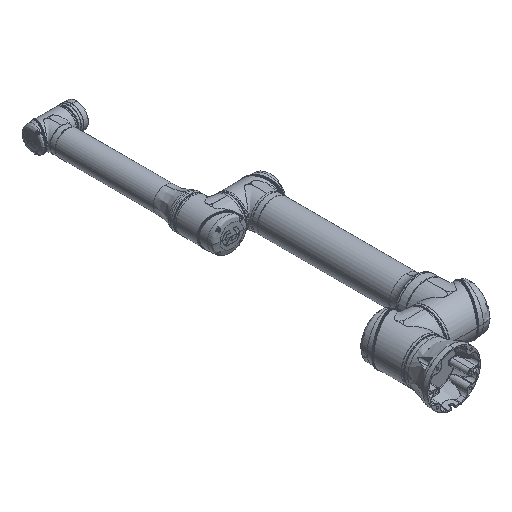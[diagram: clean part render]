
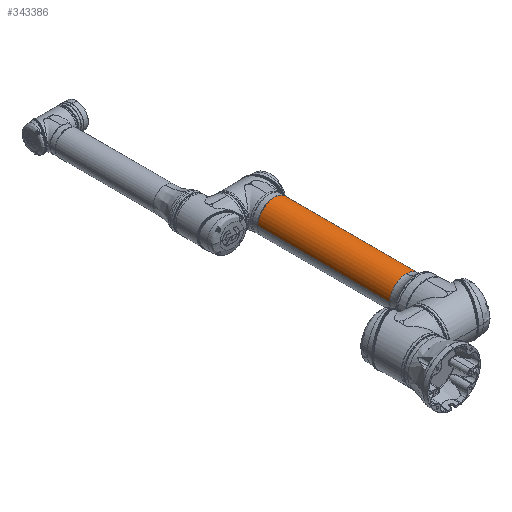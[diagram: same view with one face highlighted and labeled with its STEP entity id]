
A CAD part, isometric view. The second image highlights one B-rep face of the part: STEP entity #343386.
In plain terms, the highlighted cylindrical face has radius 59 mm (diameter 118 mm), a partial arc.
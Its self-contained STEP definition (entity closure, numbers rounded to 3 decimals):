
#12570 = AXIS2_PLACEMENT_3D ( 'NONE', #51737, #205196, #92567 ) ;
#23309 = VERTEX_POINT ( 'NONE', #252097 ) ;
#24246 = EDGE_CURVE ( 'NONE', #299391, #138115, #343925, .T. ) ;
#51737 = CARTESIAN_POINT ( 'NONE',  ( 52.463, 0., 0. ) ) ;
#69504 = EDGE_CURVE ( 'NONE', #479829, #138115, #402305, .T. ) ;
#75642 = DIRECTION ( 'NONE',  ( 1., 0., 0. ) ) ;
#76590 = CARTESIAN_POINT ( 'NONE',  ( 562.7, 0., -59. ) ) ;
#92567 = DIRECTION ( 'NONE',  ( 0., 0., -1. ) ) ;
#104200 = VECTOR ( 'NONE', #262878, 1000. ) ;
#106709 = DIRECTION ( 'NONE',  ( 0., 0., -1. ) ) ;
#111436 = DIRECTION ( 'NONE',  ( 0., 0., -1. ) ) ;
#138115 = VERTEX_POINT ( 'NONE', #342384 ) ;
#144040 = VERTEX_POINT ( 'NONE', #439489 ) ;
#145716 = DIRECTION ( 'NONE',  ( -1., 0., 0. ) ) ;
#169983 = CARTESIAN_POINT ( 'NONE',  ( 562.7, 0., 59. ) ) ;
#193072 = DIRECTION ( 'NONE',  ( 0., 0., -1. ) ) ;
#195894 = ORIENTED_EDGE ( 'NONE', *, *, #24246, .T. ) ;
#196977 = AXIS2_PLACEMENT_3D ( 'NONE', #219362, #399261, #106709 ) ;
#199499 = ORIENTED_EDGE ( 'NONE', *, *, #208476, .T. ) ;
#200282 = VECTOR ( 'NONE', #303542, 1000. ) ;
#205196 = DIRECTION ( 'NONE',  ( 1., 0., 0. ) ) ;
#208476 = EDGE_CURVE ( 'NONE', #479829, #144040, #350829, .T. ) ;
#217751 = EDGE_LOOP ( 'NONE', ( #299528, #199499, #440994, #307811, #195894 ) ) ;
#219362 = CARTESIAN_POINT ( 'NONE',  ( 52.463, 0., 0. ) ) ;
#228677 = FACE_OUTER_BOUND ( 'NONE', #217751, .T. ) ;
#252097 = CARTESIAN_POINT ( 'NONE',  ( 52.463, 0., -59. ) ) ;
#262878 = DIRECTION ( 'NONE',  ( 1., 0., 0. ) ) ;
#270628 = LINE ( 'NONE', #76590, #200282 ) ;
#299391 = VERTEX_POINT ( 'NONE', #378548 ) ;
#299528 = ORIENTED_EDGE ( 'NONE', *, *, #69504, .F. ) ;
#303542 = DIRECTION ( 'NONE',  ( 1., 0., 0. ) ) ;
#307811 = ORIENTED_EDGE ( 'NONE', *, *, #431948, .T. ) ;
#323670 = EDGE_CURVE ( 'NONE', #144040, #23309, #422541, .T. ) ;
#335224 = CARTESIAN_POINT ( 'NONE',  ( 526.1, 0., 0. ) ) ;
#342384 = CARTESIAN_POINT ( 'NONE',  ( 526.1, 0., 59. ) ) ;
#343337 = CARTESIAN_POINT ( 'NONE',  ( 562.7, 0., 0. ) ) ;
#343386 = ADVANCED_FACE ( 'NONE', ( #228677 ), #345422, .T. ) ;
#343925 = CIRCLE ( 'NONE', #369517, 59. ) ;
#345422 = CYLINDRICAL_SURFACE ( 'NONE', #422450, 59. ) ;
#350829 = CIRCLE ( 'NONE', #196977, 59. ) ;
#369517 = AXIS2_PLACEMENT_3D ( 'NONE', #335224, #145716, #111436 ) ;
#378548 = CARTESIAN_POINT ( 'NONE',  ( 526.1, 0., -59. ) ) ;
#399261 = DIRECTION ( 'NONE',  ( 1., 0., 0. ) ) ;
#402305 = LINE ( 'NONE', #169983, #104200 ) ;
#413737 = CARTESIAN_POINT ( 'NONE',  ( 52.463, 0., 59. ) ) ;
#422450 = AXIS2_PLACEMENT_3D ( 'NONE', #343337, #75642, #193072 ) ;
#422541 = CIRCLE ( 'NONE', #12570, 59. ) ;
#431948 = EDGE_CURVE ( 'NONE', #23309, #299391, #270628, .T. ) ;
#439489 = CARTESIAN_POINT ( 'NONE',  ( 52.463, -59., 0. ) ) ;
#440994 = ORIENTED_EDGE ( 'NONE', *, *, #323670, .T. ) ;
#479829 = VERTEX_POINT ( 'NONE', #413737 ) ;
